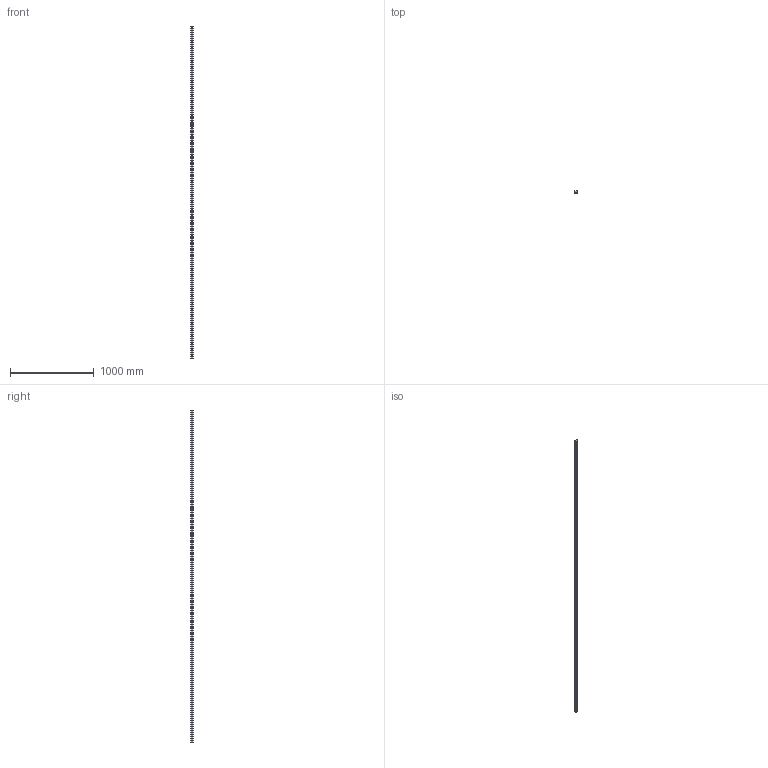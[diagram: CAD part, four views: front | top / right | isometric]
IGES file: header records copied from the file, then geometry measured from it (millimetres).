
Start section: SolidWorks IGES file using analytic representation for surfaces
Global section: file name: C:\Users\IanO\Desktop\Temp File\GENERAL\L1016_v2\L1016.RF35_v2\L1016.RF35_v2_20190612_IGES\L1016.RF35-3960.igs; native system: SolidWorks 2017; preprocessor: SolidWorks 2017; author: IanO; date: 190613.173517; units: millimetre
Bounding box: 34 x 26 x 3960 mm (x, y, z)
Surface area: 515261.8 mm2 (no closed solid volume)
Topology: 0 solids, 0 shells, 376 faces, 6168 edges, 6068 vertices
Faces by surface type: revolution 304, bspline 72
